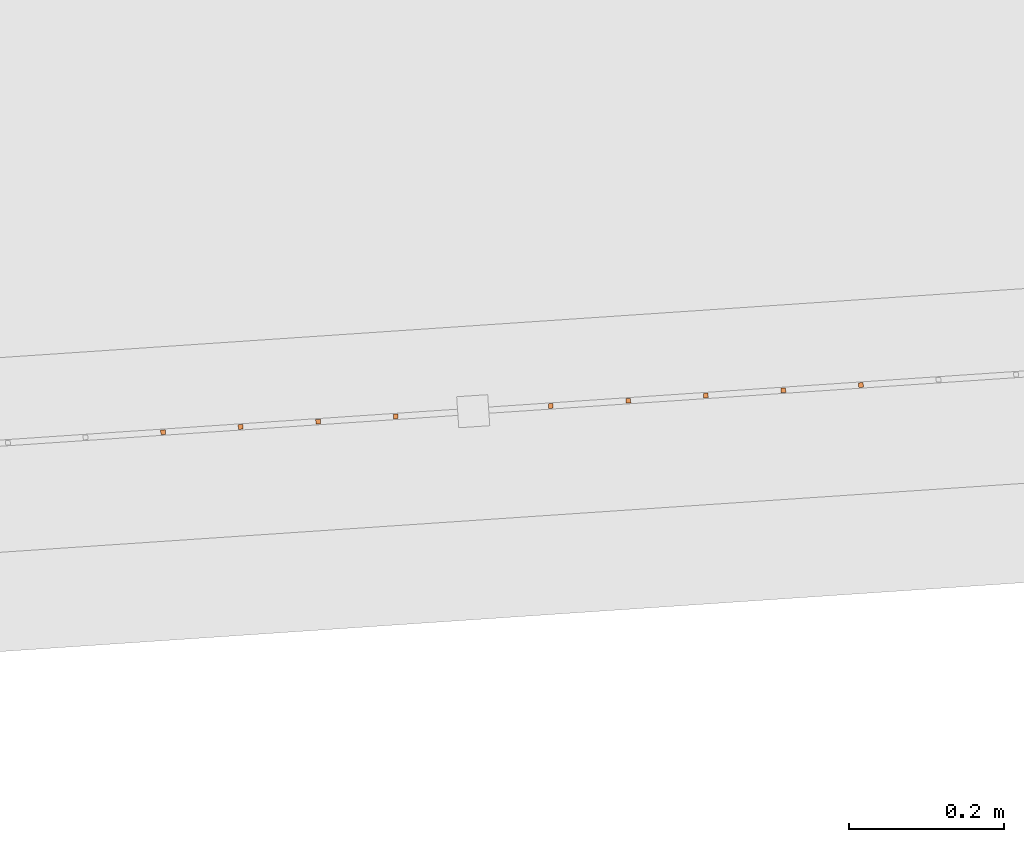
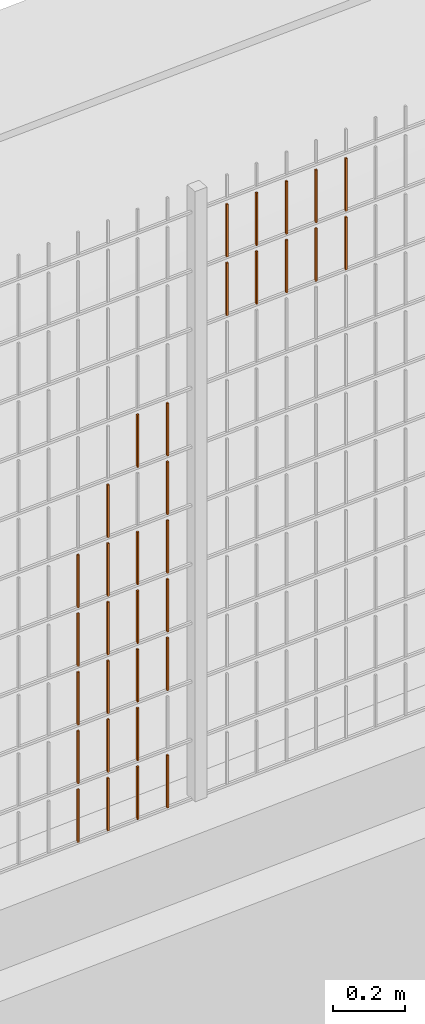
# One storey, part 217 of 1809: 33 proxies, 1 element without a shape of its own.
"""IFC2X3 building model written with IfcOpenShell, lengths in millimetres."""

from ifc_helpers import new_model, entity, si_unit, converted_unit, derived_unit, money_unit, direction, frame, origin_with_axes, place, context, subcontext, project, spatial, faceted_brep, source, transform, mapped, material, type_object, element, aggregate, save


model = new_model("IFC2X3")

# Units and contexts
model_context = context("Model", 3, precision=0.01, world=origin_with_axes(), true_north=direction((0.0, 1.0)))
body_context = subcontext(model_context, "Body", "Model", "MODEL_VIEW")
ifc_project = project(units=[si_unit("LENGTHUNIT", "METRE", prefix="MILLI"), si_unit("AREAUNIT", "SQUARE_METRE"), si_unit("VOLUMEUNIT", "CUBIC_METRE"), converted_unit("PLANEANGLEUNIT", "DEGREE", entity("IfcPlaneAngleMeasure", 0.0174532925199), si_unit("PLANEANGLEUNIT", "RADIAN"), dimensions=[0, 0, 0, 0, 0, 0, 0]), si_unit("SOLIDANGLEUNIT", "STERADIAN"), money_unit("EUR"), converted_unit("TIMEUNIT", "Year", entity("IfcTimeMeasure", 31556926.0), si_unit("TIMEUNIT", "SECOND"), dimensions=[0, 0, 1, 0, 0, 0, 0]), si_unit("MASSUNIT", "GRAM", prefix="KILO"), si_unit("THERMODYNAMICTEMPERATUREUNIT", "DEGREE_CELSIUS"), si_unit("LUMINOUSINTENSITYUNIT", "LUMEN"), si_unit("ENERGYUNIT", "JOULE", prefix="MEGA"), derived_unit("THERMALCONDUCTANCEUNIT", [(si_unit("POWERUNIT", "WATT"), 1), (si_unit("LENGTHUNIT", "METRE"), -1), (si_unit("THERMODYNAMICTEMPERATUREUNIT", "KELVIN"), -1)]), derived_unit("SPECIFICHEATCAPACITYUNIT", [(si_unit("ENERGYUNIT", "JOULE"), 1), (si_unit("MASSUNIT", "GRAM", prefix="KILO"), -1), (si_unit("THERMODYNAMICTEMPERATUREUNIT", "KELVIN"), -1)]), derived_unit("MASSDENSITYUNIT", [(si_unit("MASSUNIT", "GRAM", prefix="KILO"), 1), (si_unit("VOLUMEUNIT", "CUBIC_METRE"), -1)])], contexts=[model_context])

# Site, building, storey
site_placement = place(None, origin_with_axes())
site = spatial("IfcSite", under=ifc_project, at=site_placement, Name="Politse- ja Piirivalveameti ning Päästeameti ühishoone", CompositionType="ELEMENT")
building_placement = place(site_placement, origin_with_axes())
building = spatial("IfcBuilding", under=site, at=building_placement, Name="Politse- ja Piirivalveameti ning Päästeameti ühishoone", CompositionType="ELEMENT")
storey_placement = place(building_placement, origin_with_axes())
storey = spatial("IfcBuildingStorey", under=building, at=storey_placement, Name="Esimene korrus", CompositionType="ELEMENT", Elevation=0.0)

# Proxies
building_element_proxy_type_1 = type_object("IfcBuildingElementProxyType", Name="Railing Type", PredefinedType="NOTDEFINED")
proxy_1_placement = place(storey_placement, frame((89252.001212, -29183.4766571, 203.661247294), z_axis=(0.0, 0.0, 1.0), x_axis=(1.0, 0.0, 0.0)))
proxy_1 = element("IfcBuildingElementProxy", 1, at=proxy_1_placement, inside=storey, type_object=building_element_proxy_type_1, Name="PIIRDEAED")
ifc_material = material(Name="ET-03_Raud")
building_element_proxy_type_2 = type_object("IfcBuildingElementProxyType", Name="IfcBuildingElementProxy", PredefinedType="NOTDEFINED")
shared_shape_1 = source(origin_with_axes(), body_context, "Body", "Brep", [
    faceted_brep([(3.0, 3.0, -0.000752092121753), (-3.0, 3.0, -0.000752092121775), (-3.0, 3.0, 179.99926046), (3.0, 3.0, 179.99926046), (3.0, -3.0, 0.000752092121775), (-3.0, -3.0, 0.000752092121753), (-3.0, -3.0, 180.000764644), (3.0, -3.0, 180.000764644)], [[[0, 1, 2, 3]], [[0, 4, 5, 1]], [[1, 5, 6, 2]], [[3, 2, 6, 7]], [[4, 0, 3, 7]], [[5, 4, 7, 6]]]),
])
proxy_2_placement = place(proxy_1_placement, frame((-59790.4464561, -21336.3937787, 12.2109222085), z_axis=(0.0, 0.0, 1.0), x_axis=(1.0, 0.0, 0.0)))
proxy_2 = element("IfcBuildingElementProxy", 2, at=proxy_2_placement, type_object=building_element_proxy_type_2, material=ifc_material, Name="BALUSTER - 001", context=body_context, shape_type="MappedRepresentation", body=[
    mapped(shared_shape_1, transform((0.0, 0.0, 0.0), x_axis=(-0.0673926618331, 0.997726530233, 0.0), y_axis=(-0.997726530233, -0.0673926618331, 0.0), z_axis=(0.0, 0.0, 1.0))),
])
shared_shape_2 = source(origin_with_axes(), body_context, "Body", "Brep", [
    faceted_brep([(3.0, 3.0, -0.000752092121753), (-3.0, 3.0, -0.000752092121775), (-3.0, 3.0, 179.99926046), (3.0, 3.0, 179.99926046), (3.0, -3.0, 0.000752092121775), (-3.0, -3.0, 0.000752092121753), (-3.0, -3.0, 180.000764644), (3.0, -3.0, 180.000764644)], [[[0, 1, 2, 3]], [[0, 4, 5, 1]], [[1, 5, 6, 2]], [[3, 2, 6, 7]], [[4, 0, 3, 7]], [[5, 4, 7, 6]]]),
])
proxy_3_placement = place(proxy_1_placement, frame((-59790.4464561, -21336.3937787, 412.210922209), z_axis=(0.0, 0.0, 1.0), x_axis=(1.0, 0.0, 0.0)))
proxy_3 = element("IfcBuildingElementProxy", 3, at=proxy_3_placement, type_object=building_element_proxy_type_2, material=ifc_material, Name="BALUSTER - 001", context=body_context, shape_type="MappedRepresentation", body=[
    mapped(shared_shape_2, transform((0.0, 0.0, 0.0), x_axis=(-0.0673926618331, 0.997726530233, 0.0), y_axis=(-0.997726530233, -0.0673926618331, 0.0), z_axis=(0.0, 0.0, 1.0))),
])
proxy_4_placement = place(proxy_1_placement, frame((-59790.4464561, -21336.3937787, 612.210922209), z_axis=(0.0, 0.0, 1.0), x_axis=(1.0, 0.0, 0.0)))
proxy_4 = element("IfcBuildingElementProxy", 4, at=proxy_4_placement, type_object=building_element_proxy_type_2, material=ifc_material, Name="BALUSTER - 001", context=body_context, shape_type="MappedRepresentation", body=[
    mapped(shared_shape_2, transform((0.0, 0.0, 0.0), x_axis=(-0.0673926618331, 0.997726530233, 0.0), y_axis=(-0.997726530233, -0.0673926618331, 0.0), z_axis=(0.0, 0.0, 1.0))),
])
shared_shape_3 = source(origin_with_axes(), body_context, "Body", "Brep", [
    faceted_brep([(3.0, 3.0, -0.000752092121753), (-3.0, 3.0, -0.000752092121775), (-3.0, 3.0, 179.99926046), (3.0, 3.0, 179.99926046), (3.0, -3.0, 0.000752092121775), (-3.0, -3.0, 0.000752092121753), (-3.0, -3.0, 180.000764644), (3.0, -3.0, 180.000764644)], [[[0, 1, 2, 3]], [[0, 4, 5, 1]], [[1, 5, 6, 2]], [[3, 2, 6, 7]], [[4, 0, 3, 7]], [[5, 4, 7, 6]]]),
])
proxy_5_placement = place(proxy_1_placement, frame((-59790.4464561, -21336.3937787, 812.210922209), z_axis=(0.0, 0.0, 1.0), x_axis=(1.0, 0.0, 0.0)))
proxy_5 = element("IfcBuildingElementProxy", 5, at=proxy_5_placement, type_object=building_element_proxy_type_2, material=ifc_material, Name="BALUSTER - 001", context=body_context, shape_type="MappedRepresentation", body=[
    mapped(shared_shape_3, transform((0.0, 0.0, 0.0), x_axis=(-0.0673926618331, 0.997726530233, 0.0), y_axis=(-0.997726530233, -0.0673926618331, 0.0), z_axis=(0.0, 0.0, 1.0))),
])
shared_shape_4 = source(origin_with_axes(), body_context, "Body", "Brep", [
    faceted_brep([(3.0, 3.0, -0.000752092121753), (-3.0, 3.0, -0.000752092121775), (-3.0, 3.0, 179.99926046), (3.0, 3.0, 179.99926046), (3.0, -3.0, 0.000752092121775), (-3.0, -3.0, 0.000752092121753), (-3.0, -3.0, 180.000764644), (3.0, -3.0, 180.000764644)], [[[0, 1, 2, 3]], [[0, 4, 5, 1]], [[1, 5, 6, 2]], [[3, 2, 6, 7]], [[4, 0, 3, 7]], [[5, 4, 7, 6]]]),
])
proxy_6_placement = place(proxy_1_placement, frame((-59890.2191092, -21343.1330449, 812.185852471), z_axis=(0.0, 0.0, 1.0), x_axis=(1.0, 0.0, 0.0)))
proxy_6 = element("IfcBuildingElementProxy", 6, at=proxy_6_placement, type_object=building_element_proxy_type_2, material=ifc_material, Name="BALUSTER - 001", context=body_context, shape_type="MappedRepresentation", body=[
    mapped(shared_shape_4, transform((0.0, 0.0, 0.0), x_axis=(-0.0673926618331, 0.997726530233, 0.0), y_axis=(-0.997726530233, -0.0673926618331, 0.0), z_axis=(0.0, 0.0, 1.0))),
])
shared_shape_5 = source(origin_with_axes(), body_context, "Body", "Brep", [
    faceted_brep([(3.0, 3.0, -0.000752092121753), (-3.0, 3.0, -0.000752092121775), (-3.0, 3.0, 179.99926046), (3.0, 3.0, 179.99926046), (3.0, -3.0, 0.000752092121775), (-3.0, -3.0, 0.000752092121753), (-3.0, -3.0, 180.000764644), (3.0, -3.0, 180.000764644)], [[[0, 1, 2, 3]], [[0, 4, 5, 1]], [[1, 5, 6, 2]], [[3, 2, 6, 7]], [[4, 0, 3, 7]], [[5, 4, 7, 6]]]),
])
proxy_7_placement = place(proxy_1_placement, frame((-59890.2191092, -21343.1330449, 612.185852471), z_axis=(0.0, 0.0, 1.0), x_axis=(1.0, 0.0, 0.0)))
proxy_7 = element("IfcBuildingElementProxy", 7, at=proxy_7_placement, type_object=building_element_proxy_type_2, material=ifc_material, Name="BALUSTER - 001", context=body_context, shape_type="MappedRepresentation", body=[
    mapped(shared_shape_5, transform((0.0, 0.0, 0.0), x_axis=(-0.0673926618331, 0.997726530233, 0.0), y_axis=(-0.997726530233, -0.0673926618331, 0.0), z_axis=(0.0, 0.0, 1.0))),
])
proxy_8_placement = place(proxy_1_placement, frame((-59989.9917622, -21349.8723111, 812.160782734), z_axis=(0.0, 0.0, 1.0), x_axis=(1.0, 0.0, 0.0)))
proxy_8 = element("IfcBuildingElementProxy", 8, at=proxy_8_placement, type_object=building_element_proxy_type_2, material=ifc_material, Name="BALUSTER - 001", context=body_context, shape_type="MappedRepresentation", body=[
    mapped(shared_shape_5, transform((0.0, 0.0, 0.0), x_axis=(-0.0673926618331, 0.997726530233, 0.0), y_axis=(-0.997726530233, -0.0673926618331, 0.0), z_axis=(0.0, 0.0, 1.0))),
])
shared_shape_6 = source(origin_with_axes(), body_context, "Body", "Brep", [
    faceted_brep([(3.0, 3.0, -0.000752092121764), (-3.0, 3.0, -0.000752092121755), (-3.00000000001, 3.00000000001, 179.99926046), (2.99999999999, 3.00000000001, 179.99926046), (3.0, -3.0, 0.000752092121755), (-3.0, -3.0, 0.000752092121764), (-3.00000000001, -2.99999999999, 180.000764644), (2.99999999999, -2.99999999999, 180.000764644)], [[[0, 1, 2, 3]], [[0, 4, 5, 1]], [[1, 5, 6, 2]], [[3, 2, 6, 7]], [[4, 0, 3, 7]], [[5, 4, 7, 6]]]),
])
proxy_9_placement = place(proxy_1_placement, frame((-59989.9917622, -21349.8723111, 1012.16078273), z_axis=(0.0, 0.0, 1.0), x_axis=(1.0, 0.0, 0.0)))
proxy_9 = element("IfcBuildingElementProxy", 9, at=proxy_9_placement, type_object=building_element_proxy_type_2, material=ifc_material, Name="BALUSTER - 001", context=body_context, shape_type="MappedRepresentation", body=[
    mapped(shared_shape_6, transform((0.0, 0.0, 0.0), x_axis=(-0.0673926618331, 0.997726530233, 0.0), y_axis=(-0.997726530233, -0.0673926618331, 0.0), z_axis=(0.0, 0.0, 1.0))),
])
shared_shape_7 = source(origin_with_axes(), body_context, "Body", "Brep", [
    faceted_brep([(3.0, 3.0, -0.000752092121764), (-3.0, 3.0, -0.000752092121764), (-3.0, 3.0, 179.99926046), (3.0, 3.0, 179.99926046), (3.0, -3.0, 0.000752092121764), (-3.0, -3.0, 0.000752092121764), (-3.0, -3.0, 180.000764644), (3.0, -3.0, 180.000764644)], [[[0, 1, 2, 3]], [[0, 4, 5, 1]], [[1, 5, 6, 2]], [[3, 2, 6, 7]], [[4, 0, 3, 7]], [[5, 4, 7, 6]]]),
])
proxy_10_placement = place(proxy_1_placement, frame((-60089.7644152, -21356.6115773, 12.1357129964), z_axis=(0.0, 0.0, 1.0), x_axis=(1.0, 0.0, 0.0)))
proxy_10 = element("IfcBuildingElementProxy", 10, at=proxy_10_placement, type_object=building_element_proxy_type_2, material=ifc_material, Name="BALUSTER - 001", context=body_context, shape_type="MappedRepresentation", body=[
    mapped(shared_shape_7, transform((0.0, 0.0, 0.0), x_axis=(-0.0673926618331, 0.997726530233, 0.0), y_axis=(-0.997726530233, -0.0673926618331, 0.0), z_axis=(0.0, 0.0, 1.0))),
])
shared_shape_8 = source(origin_with_axes(), body_context, "Body", "Brep", [
    faceted_brep([(3.0, 3.0, -0.000752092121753), (-3.0, 3.0, -0.000752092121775), (-3.0, 3.0, 179.99926046), (3.0, 3.0, 179.99926046), (3.0, -3.0, 0.000752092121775), (-3.0, -3.0, 0.000752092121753), (-3.0, -3.0, 180.000764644), (3.0, -3.0, 180.000764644)], [[[0, 1, 2, 3]], [[0, 4, 5, 1]], [[1, 5, 6, 2]], [[3, 2, 6, 7]], [[4, 0, 3, 7]], [[5, 4, 7, 6]]]),
])
proxy_11_placement = place(proxy_1_placement, frame((-59890.2191092, -21343.1330449, 12.1858524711), z_axis=(0.0, 0.0, 1.0), x_axis=(1.0, 0.0, 0.0)))
proxy_11 = element("IfcBuildingElementProxy", 11, at=proxy_11_placement, type_object=building_element_proxy_type_2, material=ifc_material, Name="BALUSTER - 001", context=body_context, shape_type="MappedRepresentation", body=[
    mapped(shared_shape_8, transform((0.0, 0.0, 0.0), x_axis=(-0.0673926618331, 0.997726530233, 0.0), y_axis=(-0.997726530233, -0.0673926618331, 0.0), z_axis=(0.0, 0.0, 1.0))),
])
proxy_12_placement = place(proxy_1_placement, frame((-59989.9917622, -21349.8723111, 12.1607827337), z_axis=(0.0, 0.0, 1.0), x_axis=(1.0, 0.0, 0.0)))
proxy_12 = element("IfcBuildingElementProxy", 12, at=proxy_12_placement, type_object=building_element_proxy_type_2, material=ifc_material, Name="BALUSTER - 001", context=body_context, shape_type="MappedRepresentation", body=[
    mapped(shared_shape_8, transform((0.0, 0.0, 0.0), x_axis=(-0.0673926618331, 0.997726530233, 0.0), y_axis=(-0.997726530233, -0.0673926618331, 0.0), z_axis=(0.0, 0.0, 1.0))),
])
proxy_13_placement = place(proxy_1_placement, frame((-59890.2191092, -21343.1330449, 212.185852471), z_axis=(0.0, 0.0, 1.0), x_axis=(1.0, 0.0, 0.0)))
proxy_13 = element("IfcBuildingElementProxy", 13, at=proxy_13_placement, type_object=building_element_proxy_type_2, material=ifc_material, Name="BALUSTER - 001", context=body_context, shape_type="MappedRepresentation", body=[
    mapped(shared_shape_8, transform((0.0, 0.0, 0.0), x_axis=(-0.0673926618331, 0.997726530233, 0.0), y_axis=(-0.997726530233, -0.0673926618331, 0.0), z_axis=(0.0, 0.0, 1.0))),
])
proxy_14_placement = place(proxy_1_placement, frame((-59989.9917622, -21349.8723111, 212.160782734), z_axis=(0.0, 0.0, 1.0), x_axis=(1.0, 0.0, 0.0)))
proxy_14 = element("IfcBuildingElementProxy", 14, at=proxy_14_placement, type_object=building_element_proxy_type_2, material=ifc_material, Name="BALUSTER - 001", context=body_context, shape_type="MappedRepresentation", body=[
    mapped(shared_shape_8, transform((0.0, 0.0, 0.0), x_axis=(-0.0673926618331, 0.997726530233, 0.0), y_axis=(-0.997726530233, -0.0673926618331, 0.0), z_axis=(0.0, 0.0, 1.0))),
])
shared_shape_9 = source(origin_with_axes(), body_context, "Body", "Brep", [
    faceted_brep([(3.0, 3.0, -0.000752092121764), (-3.0, 3.0, -0.000752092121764), (-3.0, 3.0, 179.99926046), (3.0, 3.0, 179.99926046), (3.0, -3.0, 0.000752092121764), (-3.0, -3.0, 0.000752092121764), (-3.0, -3.0, 180.000764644), (3.0, -3.0, 180.000764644)], [[[0, 1, 2, 3]], [[0, 4, 5, 1]], [[1, 5, 6, 2]], [[3, 2, 6, 7]], [[4, 0, 3, 7]], [[5, 4, 7, 6]]]),
])
proxy_15_placement = place(proxy_1_placement, frame((-60089.7644152, -21356.6115773, 412.135712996), z_axis=(0.0, 0.0, 1.0), x_axis=(1.0, 0.0, 0.0)))
proxy_15 = element("IfcBuildingElementProxy", 15, at=proxy_15_placement, type_object=building_element_proxy_type_2, material=ifc_material, Name="BALUSTER - 001", context=body_context, shape_type="MappedRepresentation", body=[
    mapped(shared_shape_9, transform((0.0, 0.0, 0.0), x_axis=(-0.0673926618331, 0.997726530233, 0.0), y_axis=(-0.997726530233, -0.0673926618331, 0.0), z_axis=(0.0, 0.0, 1.0))),
])
shared_shape_10 = source(origin_with_axes(), body_context, "Body", "Brep", [
    faceted_brep([(3.0, 3.0, -0.000752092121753), (-3.0, 3.0, -0.000752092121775), (-3.0, 3.0, 179.99926046), (3.0, 3.0, 179.99926046), (3.0, -3.0, 0.000752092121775), (-3.0, -3.0, 0.000752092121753), (-3.0, -3.0, 180.000764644), (3.0, -3.0, 180.000764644)], [[[0, 1, 2, 3]], [[0, 4, 5, 1]], [[1, 5, 6, 2]], [[3, 2, 6, 7]], [[4, 0, 3, 7]], [[5, 4, 7, 6]]]),
])
proxy_16_placement = place(proxy_1_placement, frame((-59989.9917622, -21349.8723111, 412.160782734), z_axis=(0.0, 0.0, 1.0), x_axis=(1.0, 0.0, 0.0)))
proxy_16 = element("IfcBuildingElementProxy", 16, at=proxy_16_placement, type_object=building_element_proxy_type_2, material=ifc_material, Name="BALUSTER - 001", context=body_context, shape_type="MappedRepresentation", body=[
    mapped(shared_shape_10, transform((0.0, 0.0, 0.0), x_axis=(-0.0673926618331, 0.997726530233, 0.0), y_axis=(-0.997726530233, -0.0673926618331, 0.0), z_axis=(0.0, 0.0, 1.0))),
])
shared_shape_11 = source(origin_with_axes(), body_context, "Body", "Brep", [
    faceted_brep([(3.0, 3.0, -0.000752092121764), (-3.0, 3.0, -0.000752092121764), (-3.0, 3.0, 179.99926046), (3.0, 3.0, 179.99926046), (3.0, -3.0, 0.000752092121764), (-3.0, -3.0, 0.000752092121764), (-3.0, -3.0, 180.000764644), (3.0, -3.0, 180.000764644)], [[[0, 1, 2, 3]], [[0, 4, 5, 1]], [[1, 5, 6, 2]], [[3, 2, 6, 7]], [[4, 0, 3, 7]], [[5, 4, 7, 6]]]),
])
proxy_17_placement = place(proxy_1_placement, frame((-60089.7644152, -21356.6115773, 212.135712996), z_axis=(0.0, 0.0, 1.0), x_axis=(1.0, 0.0, 0.0)))
proxy_17 = element("IfcBuildingElementProxy", 17, at=proxy_17_placement, type_object=building_element_proxy_type_2, material=ifc_material, Name="BALUSTER - 001", context=body_context, shape_type="MappedRepresentation", body=[
    mapped(shared_shape_11, transform((0.0, 0.0, 0.0), x_axis=(-0.0673926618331, 0.997726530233, 0.0), y_axis=(-0.997726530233, -0.0673926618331, 0.0), z_axis=(0.0, 0.0, 1.0))),
])
shared_shape_12 = source(origin_with_axes(), body_context, "Body", "Brep", [
    faceted_brep([(3.0, 3.0, -0.000752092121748), (-3.0, 3.0, -0.00075209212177), (-3.0, 3.0, 179.99926046), (3.0, 3.0, 179.99926046), (3.0, -3.0, 0.00075209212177), (-3.0, -3.0, 0.000752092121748), (-3.0, -3.0, 180.000764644), (3.0, -3.0, 180.000764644)], [[[0, 1, 2, 3]], [[0, 4, 5, 1]], [[1, 5, 6, 2]], [[3, 2, 6, 7]], [[4, 0, 3, 7]], [[5, 4, 7, 6]]]),
])
proxy_18_placement = place(proxy_1_placement, frame((-59291.583191, -21302.6974478, 1812.3362709), z_axis=(0.0, 0.0, 1.0), x_axis=(1.0, 0.0, 0.0)))
proxy_18 = element("IfcBuildingElementProxy", 18, at=proxy_18_placement, type_object=building_element_proxy_type_2, material=ifc_material, Name="BALUSTER - 001", context=body_context, shape_type="MappedRepresentation", body=[
    mapped(shared_shape_12, transform((0.0, 0.0, 0.0), x_axis=(-0.0673926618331, 0.997726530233, 0.0), y_axis=(-0.997726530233, -0.0673926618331, 0.0), z_axis=(0.0, 0.0, 1.0))),
])
shared_shape_13 = source(origin_with_axes(), body_context, "Body", "Brep", [
    faceted_brep([(3.0, 3.0, -0.000752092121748), (-3.0, 3.0, -0.00075209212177), (-3.0, 3.0, 179.99926046), (3.0, 3.0, 179.99926046), (3.0, -3.0, 0.00075209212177), (-3.0, -3.0, 0.000752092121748), (-3.0, -3.0, 180.000764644), (3.0, -3.0, 180.000764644)], [[[0, 1, 2, 3]], [[0, 4, 5, 1]], [[1, 5, 6, 2]], [[3, 2, 6, 7]], [[4, 0, 3, 7]], [[5, 4, 7, 6]]]),
])
proxy_19_placement = place(proxy_1_placement, frame((-59191.810538, -21295.9581816, 1812.36134063), z_axis=(0.0, 0.0, 1.0), x_axis=(1.0, 0.0, 0.0)))
proxy_19 = element("IfcBuildingElementProxy", 19, at=proxy_19_placement, type_object=building_element_proxy_type_2, material=ifc_material, Name="BALUSTER - 001", context=body_context, shape_type="MappedRepresentation", body=[
    mapped(shared_shape_13, transform((0.0, 0.0, 0.0), x_axis=(-0.0673926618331, 0.997726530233, 0.0), y_axis=(-0.997726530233, -0.0673926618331, 0.0), z_axis=(0.0, 0.0, 1.0))),
])
shared_shape_14 = source(origin_with_axes(), body_context, "Body", "Brep", [
    faceted_brep([(3.0, 3.0, -0.000752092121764), (-3.0, 3.0, -0.000752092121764), (-3.0, 3.0, 179.99926046), (3.0, 3.0, 179.99926046), (3.0, -3.0, 0.000752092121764), (-3.0, -3.0, 0.000752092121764), (-3.0, -3.0, 180.000764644), (3.0, -3.0, 180.000764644)], [[[0, 1, 2, 3]], [[0, 4, 5, 1]], [[1, 5, 6, 2]], [[3, 2, 6, 7]], [[4, 0, 3, 7]], [[5, 4, 7, 6]]]),
])
proxy_20_placement = place(proxy_1_placement, frame((-59491.1284971, -21316.1759802, 1812.28613142), z_axis=(0.0, 0.0, 1.0), x_axis=(1.0, 0.0, 0.0)))
proxy_20 = element("IfcBuildingElementProxy", 20, at=proxy_20_placement, type_object=building_element_proxy_type_2, material=ifc_material, Name="BALUSTER - 001", context=body_context, shape_type="MappedRepresentation", body=[
    mapped(shared_shape_14, transform((0.0, 0.0, 0.0), x_axis=(-0.0673926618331, 0.997726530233, 0.0), y_axis=(-0.997726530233, -0.0673926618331, 0.0), z_axis=(0.0, 0.0, 1.0))),
])
shared_shape_15 = source(origin_with_axes(), body_context, "Body", "Brep", [
    faceted_brep([(3.0, 3.0, -0.000752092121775), (-3.0, 3.0, -0.000752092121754), (-3.0, 3.0, 179.99926046), (3.0, 3.0, 179.99926046), (3.0, -3.0, 0.000752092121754), (-3.0, -3.0, 0.000752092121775), (-3.0, -3.0, 180.000764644), (3.0, -3.0, 180.000764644)], [[[0, 1, 2, 3]], [[0, 4, 5, 1]], [[1, 5, 6, 2]], [[3, 2, 6, 7]], [[4, 0, 3, 7]], [[5, 4, 7, 6]]]),
])
proxy_21_placement = place(proxy_1_placement, frame((-59590.9011501, -21322.9152463, 1812.26106168), z_axis=(0.0, 0.0, 1.0), x_axis=(1.0, 0.0, 0.0)))
proxy_21 = element("IfcBuildingElementProxy", 21, at=proxy_21_placement, type_object=building_element_proxy_type_2, material=ifc_material, Name="BALUSTER - 001", context=body_context, shape_type="MappedRepresentation", body=[
    mapped(shared_shape_15, transform((0.0, 0.0, 0.0), x_axis=(-0.0673926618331, 0.997726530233, 0.0), y_axis=(-0.997726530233, -0.0673926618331, 0.0), z_axis=(0.0, 0.0, 1.0))),
])
shared_shape_16 = source(origin_with_axes(), body_context, "Body", "Brep", [
    faceted_brep([(3.0, 3.0, -0.000752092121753), (-3.0, 3.0, -0.000752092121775), (-3.0, 3.0, 179.99926046), (3.0, 3.0, 179.99926046), (3.0, -3.0, 0.000752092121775), (-3.0, -3.0, 0.000752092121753), (-3.0, -3.0, 180.000764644), (3.0, -3.0, 180.000764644)], [[[0, 1, 2, 3]], [[0, 4, 5, 1]], [[1, 5, 6, 2]], [[3, 2, 6, 7]], [[4, 0, 3, 7]], [[5, 4, 7, 6]]]),
])
proxy_22_placement = place(proxy_1_placement, frame((-59989.9917622, -21349.8723111, 612.160782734), z_axis=(0.0, 0.0, 1.0), x_axis=(1.0, 0.0, 0.0)))
proxy_22 = element("IfcBuildingElementProxy", 22, at=proxy_22_placement, type_object=building_element_proxy_type_2, material=ifc_material, Name="BALUSTER - 001", context=body_context, shape_type="MappedRepresentation", body=[
    mapped(shared_shape_16, transform((0.0, 0.0, 0.0), x_axis=(-0.0673926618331, 0.997726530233, 0.0), y_axis=(-0.997726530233, -0.0673926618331, 0.0), z_axis=(0.0, 0.0, 1.0))),
])
shared_shape_17 = source(origin_with_axes(), body_context, "Body", "Brep", [
    faceted_brep([(3.0, 3.0, -0.000752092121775), (-3.0, 3.0, -0.000752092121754), (-3.0, 3.0, 179.99926046), (3.0, 3.0, 179.99926046), (3.0, -3.0, 0.000752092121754), (-3.0, -3.0, 0.000752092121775), (-3.0, -3.0, 180.000764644), (3.0, -3.0, 180.000764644)], [[[0, 1, 2, 3]], [[0, 4, 5, 1]], [[1, 5, 6, 2]], [[3, 2, 6, 7]], [[4, 0, 3, 7]], [[5, 4, 7, 6]]]),
])
proxy_23_placement = place(proxy_1_placement, frame((-59590.9011501, -21322.9152463, 1612.26106168), z_axis=(0.0, 0.0, 1.0), x_axis=(1.0, 0.0, 0.0)))
proxy_23 = element("IfcBuildingElementProxy", 23, at=proxy_23_placement, type_object=building_element_proxy_type_2, material=ifc_material, Name="BALUSTER - 001", context=body_context, shape_type="MappedRepresentation", body=[
    mapped(shared_shape_17, transform((0.0, 0.0, 0.0), x_axis=(-0.0673926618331, 0.997726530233, 0.0), y_axis=(-0.997726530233, -0.0673926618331, 0.0), z_axis=(0.0, 0.0, 1.0))),
])
shared_shape_18 = source(origin_with_axes(), body_context, "Body", "Brep", [
    faceted_brep([(3.0, 3.0, -0.000752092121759), (-3.0, 3.0, -0.000752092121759), (-3.0, 3.0, 179.99926046), (3.0, 3.0, 179.99926046), (3.0, -3.0, 0.000752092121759), (-3.0, -3.0, 0.000752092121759), (-3.0, -3.0, 180.000764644), (3.0, -3.0, 180.000764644)], [[[0, 1, 2, 3]], [[0, 4, 5, 1]], [[1, 5, 6, 2]], [[3, 2, 6, 7]], [[4, 0, 3, 7]], [[5, 4, 7, 6]]]),
])
proxy_24_placement = place(proxy_1_placement, frame((-59890.2191092, -21343.1330449, 1212.18585247), z_axis=(0.0, 0.0, 1.0), x_axis=(1.0, 0.0, 0.0)))
proxy_24 = element("IfcBuildingElementProxy", 24, at=proxy_24_placement, type_object=building_element_proxy_type_2, material=ifc_material, Name="BALUSTER - 001", context=body_context, shape_type="MappedRepresentation", body=[
    mapped(shared_shape_18, transform((0.0, 0.0, 0.0), x_axis=(-0.0673926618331, 0.997726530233, 0.0), y_axis=(-0.997726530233, -0.0673926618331, 0.0), z_axis=(0.0, 0.0, 1.0))),
])
shared_shape_19 = source(origin_with_axes(), body_context, "Body", "Brep", [
    faceted_brep([(3.0, 3.0, -0.000752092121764), (-3.0, 3.0, -0.000752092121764), (-3.0, 3.0, 179.99926046), (3.0, 3.0, 179.99926046), (3.0, -3.0, 0.000752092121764), (-3.0, -3.0, 0.000752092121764), (-3.0, -3.0, 180.000764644), (3.0, -3.0, 180.000764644)], [[[0, 1, 2, 3]], [[0, 4, 5, 1]], [[1, 5, 6, 2]], [[3, 2, 6, 7]], [[4, 0, 3, 7]], [[5, 4, 7, 6]]]),
])
proxy_25_placement = place(proxy_1_placement, frame((-59491.1284971, -21316.1759802, 1612.28613142), z_axis=(0.0, 0.0, 1.0), x_axis=(1.0, 0.0, 0.0)))
proxy_25 = element("IfcBuildingElementProxy", 25, at=proxy_25_placement, type_object=building_element_proxy_type_2, material=ifc_material, Name="BALUSTER - 001", context=body_context, shape_type="MappedRepresentation", body=[
    mapped(shared_shape_19, transform((0.0, 0.0, 0.0), x_axis=(-0.0673926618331, 0.997726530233, 0.0), y_axis=(-0.997726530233, -0.0673926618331, 0.0), z_axis=(0.0, 0.0, 1.0))),
])
shared_shape_20 = source(origin_with_axes(), body_context, "Body", "Brep", [
    faceted_brep([(3.0, 3.0, -0.000752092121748), (-3.0, 3.0, -0.00075209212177), (-3.0, 3.0, 179.99926046), (3.0, 3.0, 179.99926046), (3.0, -3.0, 0.00075209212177), (-3.0, -3.0, 0.000752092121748), (-3.0, -3.0, 180.000764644), (3.0, -3.0, 180.000764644)], [[[0, 1, 2, 3]], [[0, 4, 5, 1]], [[1, 5, 6, 2]], [[3, 2, 6, 7]], [[4, 0, 3, 7]], [[5, 4, 7, 6]]]),
])
proxy_26_placement = place(proxy_1_placement, frame((-59191.810538, -21295.9581816, 1612.36134063), z_axis=(0.0, 0.0, 1.0), x_axis=(1.0, 0.0, 0.0)))
proxy_26 = element("IfcBuildingElementProxy", 26, at=proxy_26_placement, type_object=building_element_proxy_type_2, material=ifc_material, Name="BALUSTER - 001", context=body_context, shape_type="MappedRepresentation", body=[
    mapped(shared_shape_20, transform((0.0, 0.0, 0.0), x_axis=(-0.0673926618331, 0.997726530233, 0.0), y_axis=(-0.997726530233, -0.0673926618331, 0.0), z_axis=(0.0, 0.0, 1.0))),
])
shared_shape_21 = source(origin_with_axes(), body_context, "Body", "Brep", [
    faceted_brep([(3.0, 3.0, -0.000752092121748), (-3.0, 3.0, -0.00075209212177), (-3.0, 3.0, 179.99926046), (3.0, 3.0, 179.99926046), (3.0, -3.0, 0.00075209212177), (-3.0, -3.0, 0.000752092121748), (-3.0, -3.0, 180.000764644), (3.0, -3.0, 180.000764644)], [[[0, 1, 2, 3]], [[0, 4, 5, 1]], [[1, 5, 6, 2]], [[3, 2, 6, 7]], [[4, 0, 3, 7]], [[5, 4, 7, 6]]]),
])
proxy_27_placement = place(proxy_1_placement, frame((-59291.583191, -21302.6974478, 1612.3362709), z_axis=(0.0, 0.0, 1.0), x_axis=(1.0, 0.0, 0.0)))
proxy_27 = element("IfcBuildingElementProxy", 27, at=proxy_27_placement, type_object=building_element_proxy_type_2, material=ifc_material, Name="BALUSTER - 001", context=body_context, shape_type="MappedRepresentation", body=[
    mapped(shared_shape_21, transform((0.0, 0.0, 0.0), x_axis=(-0.0673926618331, 0.997726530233, 0.0), y_axis=(-0.997726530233, -0.0673926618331, 0.0), z_axis=(0.0, 0.0, 1.0))),
])
shared_shape_22 = source(origin_with_axes(), body_context, "Body", "Brep", [
    faceted_brep([(3.0, 3.0, -0.000752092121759), (-3.0, 3.0, -0.000752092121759), (-3.0, 3.0, 179.99926046), (3.0, 3.0, 179.99926046), (3.0, -3.0, 0.000752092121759), (-3.0, -3.0, 0.000752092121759), (-3.0, -3.0, 180.000764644), (3.0, -3.0, 180.000764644)], [[[0, 1, 2, 3]], [[0, 4, 5, 1]], [[1, 5, 6, 2]], [[3, 2, 6, 7]], [[4, 0, 3, 7]], [[5, 4, 7, 6]]]),
])
proxy_28_placement = place(proxy_1_placement, frame((-59391.3558441, -21309.436714, 1612.31120116), z_axis=(0.0, 0.0, 1.0), x_axis=(1.0, 0.0, 0.0)))
proxy_28 = element("IfcBuildingElementProxy", 28, at=proxy_28_placement, type_object=building_element_proxy_type_2, material=ifc_material, Name="BALUSTER - 001", context=body_context, shape_type="MappedRepresentation", body=[
    mapped(shared_shape_22, transform((0.0, 0.0, 0.0), x_axis=(-0.0673926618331, 0.997726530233, 0.0), y_axis=(-0.997726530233, -0.0673926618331, 0.0), z_axis=(0.0, 0.0, 1.0))),
])
shared_shape_23 = source(origin_with_axes(), body_context, "Body", "Brep", [
    faceted_brep([(3.0, 3.0, -0.000752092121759), (-3.0, 3.0, -0.000752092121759), (-3.0, 3.0, 179.99926046), (3.0, 3.0, 179.99926046), (3.0, -3.0, 0.000752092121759), (-3.0, -3.0, 0.000752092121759), (-3.0, -3.0, 180.000764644), (3.0, -3.0, 180.000764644)], [[[0, 1, 2, 3]], [[0, 4, 5, 1]], [[1, 5, 6, 2]], [[3, 2, 6, 7]], [[4, 0, 3, 7]], [[5, 4, 7, 6]]]),
])
proxy_29_placement = place(proxy_1_placement, frame((-59391.3558441, -21309.436714, 1812.31120116), z_axis=(0.0, 0.0, 1.0), x_axis=(1.0, 0.0, 0.0)))
proxy_29 = element("IfcBuildingElementProxy", 29, at=proxy_29_placement, type_object=building_element_proxy_type_2, material=ifc_material, Name="BALUSTER - 001", context=body_context, shape_type="MappedRepresentation", body=[
    mapped(shared_shape_23, transform((0.0, 0.0, 0.0), x_axis=(-0.0673926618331, 0.997726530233, 0.0), y_axis=(-0.997726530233, -0.0673926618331, 0.0), z_axis=(0.0, 0.0, 1.0))),
])
shared_shape_24 = source(origin_with_axes(), body_context, "Body", "Brep", [
    faceted_brep([(3.0, 3.0, -0.000752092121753), (-3.0, 3.0, -0.000752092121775), (-3.0, 3.0, 179.99926046), (3.0, 3.0, 179.99926046), (3.0, -3.0, 0.000752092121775), (-3.0, -3.0, 0.000752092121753), (-3.0, -3.0, 180.000764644), (3.0, -3.0, 180.000764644)], [[[0, 1, 2, 3]], [[0, 4, 5, 1]], [[1, 5, 6, 2]], [[3, 2, 6, 7]], [[4, 0, 3, 7]], [[5, 4, 7, 6]]]),
])
proxy_30_placement = place(proxy_1_placement, frame((-59890.2191092, -21343.1330449, 412.185852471), z_axis=(0.0, 0.0, 1.0), x_axis=(1.0, 0.0, 0.0)))
proxy_30 = element("IfcBuildingElementProxy", 30, at=proxy_30_placement, type_object=building_element_proxy_type_2, material=ifc_material, Name="BALUSTER - 001", context=body_context, shape_type="MappedRepresentation", body=[
    mapped(shared_shape_24, transform((0.0, 0.0, 0.0), x_axis=(-0.0673926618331, 0.997726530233, 0.0), y_axis=(-0.997726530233, -0.0673926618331, 0.0), z_axis=(0.0, 0.0, 1.0))),
])
shared_shape_25 = source(origin_with_axes(), body_context, "Body", "Brep", [
    faceted_brep([(3.0, 3.0, -0.000752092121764), (-3.0, 3.0, -0.000752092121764), (-3.0, 3.0, 179.99926046), (3.0, 3.0, 179.99926046), (3.0, -3.0, 0.000752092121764), (-3.0, -3.0, 0.000752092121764), (-3.0, -3.0, 180.000764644), (3.0, -3.0, 180.000764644)], [[[0, 1, 2, 3]], [[0, 4, 5, 1]], [[1, 5, 6, 2]], [[3, 2, 6, 7]], [[4, 0, 3, 7]], [[5, 4, 7, 6]]]),
])
proxy_31_placement = place(proxy_1_placement, frame((-60089.7644152, -21356.6115773, 612.135712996), z_axis=(0.0, 0.0, 1.0), x_axis=(1.0, 0.0, 0.0)))
proxy_31 = element("IfcBuildingElementProxy", 31, at=proxy_31_placement, type_object=building_element_proxy_type_2, material=ifc_material, Name="BALUSTER - 001", context=body_context, shape_type="MappedRepresentation", body=[
    mapped(shared_shape_25, transform((0.0, 0.0, 0.0), x_axis=(-0.0673926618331, 0.997726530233, 0.0), y_axis=(-0.997726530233, -0.0673926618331, 0.0), z_axis=(0.0, 0.0, 1.0))),
])
shared_shape_26 = source(origin_with_axes(), body_context, "Body", "Brep", [
    faceted_brep([(3.0, 3.0, -0.000752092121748), (-3.0, 3.0, -0.00075209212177), (-3.0, 3.0, 179.99926046), (3.0, 3.0, 179.99926046), (3.0, -3.0, 0.00075209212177), (-3.0, -3.0, 0.000752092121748), (-3.0, -3.0, 180.000764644), (3.0, -3.0, 180.000764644)], [[[0, 1, 2, 3]], [[0, 4, 5, 1]], [[1, 5, 6, 2]], [[3, 2, 6, 7]], [[4, 0, 3, 7]], [[5, 4, 7, 6]]]),
])
proxy_32_placement = place(proxy_1_placement, frame((-59790.4464561, -21336.3937787, 1212.21092221), z_axis=(0.0, 0.0, 1.0), x_axis=(1.0, 0.0, 0.0)))
proxy_32 = element("IfcBuildingElementProxy", 32, at=proxy_32_placement, type_object=building_element_proxy_type_2, material=ifc_material, Name="BALUSTER - 001", context=body_context, shape_type="MappedRepresentation", body=[
    mapped(shared_shape_26, transform((0.0, 0.0, 0.0), x_axis=(-0.0673926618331, 0.997726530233, 0.0), y_axis=(-0.997726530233, -0.0673926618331, 0.0), z_axis=(0.0, 0.0, 1.0))),
])
shared_shape_27 = source(origin_with_axes(), body_context, "Body", "Brep", [
    faceted_brep([(3.0, 3.0, -0.000752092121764), (-3.0, 3.0, -0.000752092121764), (-3.0, 3.0, 179.99926046), (3.0, 3.0, 179.99926046), (3.0, -3.0, 0.000752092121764), (-3.0, -3.0, 0.000752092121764), (-3.0, -3.0, 180.000764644), (3.0, -3.0, 180.000764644)], [[[0, 1, 2, 3]], [[0, 4, 5, 1]], [[1, 5, 6, 2]], [[3, 2, 6, 7]], [[4, 0, 3, 7]], [[5, 4, 7, 6]]]),
])
proxy_33_placement = place(proxy_1_placement, frame((-60089.7644152, -21356.6115773, 812.135712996), z_axis=(0.0, 0.0, 1.0), x_axis=(1.0, 0.0, 0.0)))
proxy_33 = element("IfcBuildingElementProxy", 33, at=proxy_33_placement, type_object=building_element_proxy_type_2, material=ifc_material, Name="BALUSTER - 001", context=body_context, shape_type="MappedRepresentation", body=[
    mapped(shared_shape_27, transform((0.0, 0.0, 0.0), x_axis=(-0.0673926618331, 0.997726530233, 0.0), y_axis=(-0.997726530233, -0.0673926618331, 0.0), z_axis=(0.0, 0.0, 1.0))),
])
shared_shape_28 = source(origin_with_axes(), body_context, "Body", "Brep", [
    faceted_brep([(3.0, 3.0, -0.000752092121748), (-3.0, 3.0, -0.00075209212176), (-3.00000000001, 3.00000000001, 179.99926046), (2.99999999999, 3.00000000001, 179.99926046), (3.0, -3.0, 0.00075209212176), (-3.0, -3.0, 0.000752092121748), (-3.00000000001, -2.99999999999, 180.000764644), (2.99999999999, -2.99999999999, 180.000764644)], [[[0, 1, 2, 3]], [[0, 4, 5, 1]], [[1, 5, 6, 2]], [[3, 2, 6, 7]], [[4, 0, 3, 7]], [[5, 4, 7, 6]]]),
])
proxy_34_placement = place(proxy_1_placement, frame((-59790.4464561, -21336.3937787, 1012.21092221), z_axis=(0.0, 0.0, 1.0), x_axis=(1.0, 0.0, 0.0)))
proxy_34 = element("IfcBuildingElementProxy", 34, at=proxy_34_placement, type_object=building_element_proxy_type_2, material=ifc_material, Name="BALUSTER - 001", context=body_context, shape_type="MappedRepresentation", body=[
    mapped(shared_shape_28, transform((0.0, 0.0, 0.0), x_axis=(-0.0673926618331, 0.997726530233, 0.0), y_axis=(-0.997726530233, -0.0673926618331, 0.0), z_axis=(0.0, 0.0, 1.0))),
])
aggregate(proxy_1, [proxy_26, proxy_27, proxy_28, proxy_25, proxy_23, proxy_19, proxy_18, proxy_29, proxy_20, proxy_21, proxy_2, proxy_11, proxy_12, proxy_10, proxy_13, proxy_14, proxy_17, proxy_3, proxy_30, proxy_16, proxy_15, proxy_4, proxy_7, proxy_22, proxy_31, proxy_5, proxy_6, proxy_8, proxy_33, proxy_34, proxy_9, proxy_32, proxy_24])

save(model, "model.ifc")
